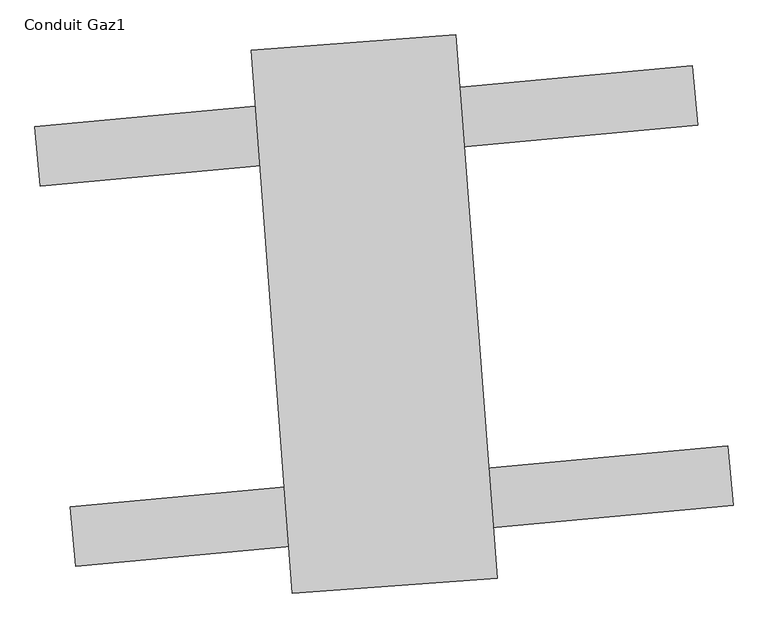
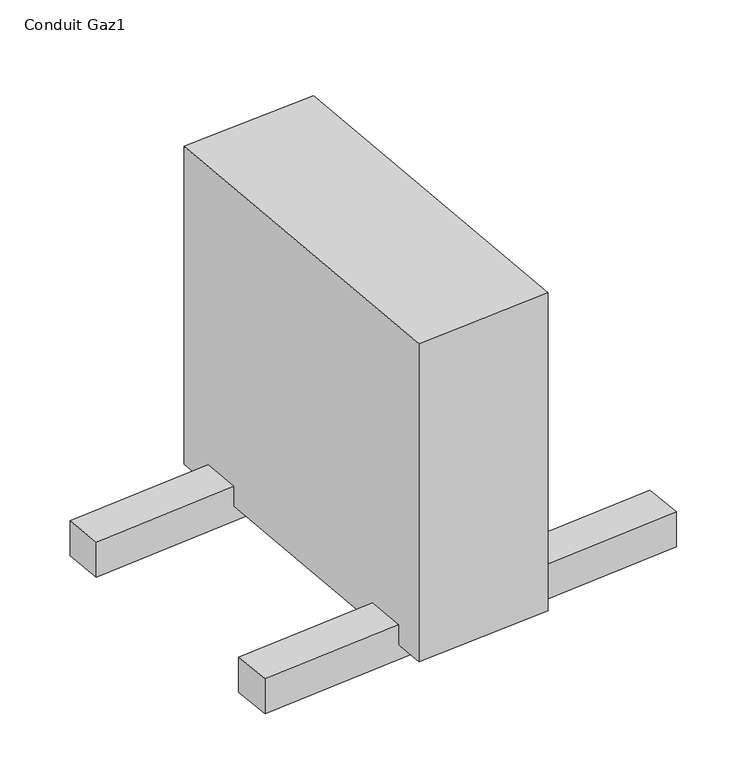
"""IFC4 building model written with IfcOpenShell, lengths in millimetres: proxy geometry, Conduit Gaz1 : Conduit Gaz."""

from ifc_helpers import new_model, si_unit, frame, origin, place, context, project, spatial, polyline, outline, extrude, source, transform, mapped, element, save


def conduit_gaz1_d3ddbf7c(model_context):
    return source(origin(), model_context, "Body", "SweptSolid", [
        extrude(outline(polyline([(-4323.6764983, -10415.5930026), (-3335.2216493, -10323.4601198), (-3326.8650392, -10413.114665), (-4315.3198882, -10505.2475478), (-4323.6764983, -10415.5930026)])), frame((0.0, 0.0, 10853.3082742), z_axis=(0.0, 0.0, 1.0), x_axis=(1.0, 0.0, 0.0)), (0.0, 0.0, 1.0), 83.8898589),
        extrude(outline(polyline([(-4377.0136339, -9843.3613651), (-3388.5587849, -9751.2284823), (-3380.2021749, -9840.8830275), (-4368.6570239, -9933.0159103), (-4377.0136339, -9843.3613651)])), frame((0.0, 0.0, 10853.3082742), z_axis=(0.0, 0.0, 1.0), x_axis=(1.0, 0.0, 0.0)), (0.0, 0.0, 1.0), 83.8898589),
        extrude(outline(polyline([(-4051.4182551, -9728.4616784), (-3743.7065076, -9705.1891679), (-3681.8657986, -10522.8539689), (-3989.5775461, -10546.1264793), (-4051.4182551, -9728.4616784)])), frame((0.0, 0.0, 10889.4184153), z_axis=(0.0, 0.0, 1.0), x_axis=(1.0, 0.0, 0.0)), (0.0, 0.0, 1.0), 763.8898589),
    ])


if __name__ == "__main__":
    model = new_model("IFC4")
    model_context = context("Model", 3, world=origin())
    ifc_project = project(units=[si_unit("LENGTHUNIT", "METRE", prefix="MILLI")], contexts=[model_context])
    site = spatial("IfcSite", under=ifc_project)
    building = spatial("IfcBuilding", under=site)
    placement = place(None, origin())
    conduit_gaz1_shape = conduit_gaz1_d3ddbf7c(model_context)
    element("IfcBuildingElementProxy", 1, Name="Conduit Gaz1 : Conduit Gaz", ObjectType="Conduit Gaz1 : Conduit Gaz", at=placement, inside=building, context=model_context, shape_type="MappedRepresentation", body=[
        mapped(conduit_gaz1_shape, transform((0.0, 0.0, 0.0), x_axis=(1.0, 0.0, 0.0), y_axis=(0.0, 1.0, 0.0), z_axis=(0.0, 0.0, 1.0))),
    ])
    save(model, "model.ifc")
